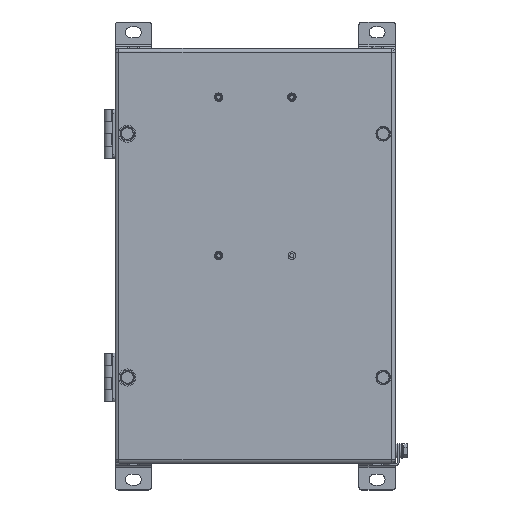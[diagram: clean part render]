
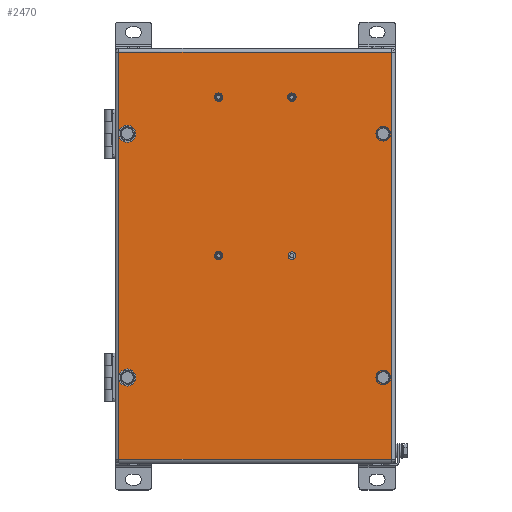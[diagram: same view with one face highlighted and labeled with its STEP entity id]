
A CAD part, top view. The second image highlights one B-rep face of the part: STEP entity #2470.
In plain terms, the highlighted planar face has unit normal (0, 0, 1).
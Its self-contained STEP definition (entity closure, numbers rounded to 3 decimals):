
#1900=CARTESIAN_POINT('',(112.,-167.,150.));
#1901=VERTEX_POINT('',#1900);
#1967=CARTESIAN_POINT('',(112.0,167.,150.));
#1968=VERTEX_POINT('',#1967);
#2034=CARTESIAN_POINT('',(-112.,-167.,150.));
#2035=VERTEX_POINT('',#2034);
#2107=CARTESIAN_POINT('',(112.,-167.,150.));
#2108=DIRECTION('',(-1.0,0.0,0.0));
#2109=VECTOR('',#2108,224.);
#2110=LINE('',#2107,#2109);
#2111=EDGE_CURVE('',#1901,#2035,#2110,.T.);
#2123=CARTESIAN_POINT('',(-112.,167.,150.));
#2124=VERTEX_POINT('',#2123);
#2196=CARTESIAN_POINT('',(-112.,-167.0,150.));
#2197=DIRECTION('',(0.0,1.0,0.0));
#2198=VECTOR('',#2197,334.0);
#2199=LINE('',#2196,#2198);
#2200=EDGE_CURVE('',#2035,#2124,#2199,.T.);
#2218=CARTESIAN_POINT('',(-112.,167.,150.));
#2219=DIRECTION('',(1.0,0.0,0.0));
#2220=VECTOR('',#2219,224.);
#2221=LINE('',#2218,#2220);
#2222=EDGE_CURVE('',#2124,#1968,#2221,.T.);
#2240=CARTESIAN_POINT('',(112.,167.0,150.));
#2241=DIRECTION('',(0.0,-1.0,0.0));
#2242=VECTOR('',#2241,334.0);
#2243=LINE('',#2240,#2242);
#2244=EDGE_CURVE('',#1968,#1901,#2243,.T.);
#2371=CARTESIAN_POINT('',(0.,0.,150.));
#2372=DIRECTION('',(0.0,0.0,1.0));
#2373=DIRECTION('',(1.0,0.0,0.0));
#2374=AXIS2_PLACEMENT_3D('',#2371,#2372,#2373);
#2375=PLANE('',#2374);
#2376=ORIENTED_EDGE('',*,*,#2111,.F.);
#2377=ORIENTED_EDGE('',*,*,#2244,.F.);
#2378=ORIENTED_EDGE('',*,*,#2222,.F.);
#2379=ORIENTED_EDGE('',*,*,#2200,.F.);
#2380=EDGE_LOOP('',(#2376,#2377,#2378,#2379));
#2381=FACE_OUTER_BOUND('',#2380,.T.);
#2382=CARTESIAN_POINT('',(-101.25,100.,150.));
#2383=VERTEX_POINT('',#2382);
#2384=CARTESIAN_POINT('',(-105.,100.,150.));
#2385=DIRECTION('',(0.0,0.0,-1.0));
#2386=DIRECTION('',(-1.0,0.0,0.0));
#2387=AXIS2_PLACEMENT_3D('',#2384,#2385,#2386);
#2388=CIRCLE('',#2387,3.75);
#2389=EDGE_CURVE('',#2383,#2383,#2388,.T.);
#2390=ORIENTED_EDGE('',*,*,#2389,.T.);
#2391=EDGE_LOOP('',(#2390));
#2392=FACE_BOUND('',#2391,.T.);
#2393=CARTESIAN_POINT('',(108.75,100.0,150.));
#2394=VERTEX_POINT('',#2393);
#2395=CARTESIAN_POINT('',(105.,100.0,150.));
#2396=DIRECTION('',(0.0,0.0,-1.0));
#2397=DIRECTION('',(-1.0,0.0,0.0));
#2398=AXIS2_PLACEMENT_3D('',#2395,#2396,#2397);
#2399=CIRCLE('',#2398,3.75);
#2400=EDGE_CURVE('',#2394,#2394,#2399,.T.);
#2401=ORIENTED_EDGE('',*,*,#2400,.T.);
#2402=EDGE_LOOP('',(#2401));
#2403=FACE_BOUND('',#2402,.T.);
#2404=CARTESIAN_POINT('',(-101.25,-100.,150.));
#2405=VERTEX_POINT('',#2404);
#2406=CARTESIAN_POINT('',(-105.,-100.,150.));
#2407=DIRECTION('',(0.0,0.0,-1.0));
#2408=DIRECTION('',(-1.0,0.0,0.0));
#2409=AXIS2_PLACEMENT_3D('',#2406,#2407,#2408);
#2410=CIRCLE('',#2409,3.75);
#2411=EDGE_CURVE('',#2405,#2405,#2410,.T.);
#2412=ORIENTED_EDGE('',*,*,#2411,.T.);
#2413=EDGE_LOOP('',(#2412));
#2414=FACE_BOUND('',#2413,.T.);
#2415=CARTESIAN_POINT('',(108.75,-100.0,150.));
#2416=VERTEX_POINT('',#2415);
#2417=CARTESIAN_POINT('',(105.,-100.0,150.));
#2418=DIRECTION('',(0.0,0.0,-1.0));
#2419=DIRECTION('',(-1.0,0.0,0.0));
#2420=AXIS2_PLACEMENT_3D('',#2417,#2418,#2419);
#2421=CIRCLE('',#2420,3.75);
#2422=EDGE_CURVE('',#2416,#2416,#2421,.T.);
#2423=ORIENTED_EDGE('',*,*,#2422,.T.);
#2424=EDGE_LOOP('',(#2423));
#2425=FACE_BOUND('',#2424,.T.);
#2426=CARTESIAN_POINT('',(33.05,130.,150.));
#2427=VERTEX_POINT('',#2426);
#2428=CARTESIAN_POINT('',(30.,130.,150.));
#2429=DIRECTION('',(0.0,0.0,-1.0));
#2430=DIRECTION('',(-1.0,0.0,0.0));
#2431=AXIS2_PLACEMENT_3D('',#2428,#2429,#2430);
#2432=CIRCLE('',#2431,3.05);
#2433=EDGE_CURVE('',#2427,#2427,#2432,.T.);
#2434=ORIENTED_EDGE('',*,*,#2433,.T.);
#2435=EDGE_LOOP('',(#2434));
#2436=FACE_BOUND('',#2435,.T.);
#2437=CARTESIAN_POINT('',(-26.95,130.,150.));
#2438=VERTEX_POINT('',#2437);
#2439=CARTESIAN_POINT('',(-30.,130.,150.));
#2440=DIRECTION('',(0.0,0.0,-1.0));
#2441=DIRECTION('',(-1.0,0.0,0.0));
#2442=AXIS2_PLACEMENT_3D('',#2439,#2440,#2441);
#2443=CIRCLE('',#2442,3.05);
#2444=EDGE_CURVE('',#2438,#2438,#2443,.T.);
#2445=ORIENTED_EDGE('',*,*,#2444,.T.);
#2446=EDGE_LOOP('',(#2445));
#2447=FACE_BOUND('',#2446,.T.);
#2448=CARTESIAN_POINT('',(-26.95,0.,150.));
#2449=VERTEX_POINT('',#2448);
#2450=CARTESIAN_POINT('',(-30.,0.,150.));
#2451=DIRECTION('',(0.0,0.0,-1.0));
#2452=DIRECTION('',(-1.0,0.0,0.0));
#2453=AXIS2_PLACEMENT_3D('',#2450,#2451,#2452);
#2454=CIRCLE('',#2453,3.05);
#2455=EDGE_CURVE('',#2449,#2449,#2454,.T.);
#2456=ORIENTED_EDGE('',*,*,#2455,.T.);
#2457=EDGE_LOOP('',(#2456));
#2458=FACE_BOUND('',#2457,.T.);
#2459=CARTESIAN_POINT('',(33.05,0.,150.));
#2460=VERTEX_POINT('',#2459);
#2461=CARTESIAN_POINT('',(30.,0.,150.));
#2462=DIRECTION('',(0.0,0.0,-1.0));
#2463=DIRECTION('',(-1.0,0.0,0.0));
#2464=AXIS2_PLACEMENT_3D('',#2461,#2462,#2463);
#2465=CIRCLE('',#2464,3.05);
#2466=EDGE_CURVE('',#2460,#2460,#2465,.T.);
#2467=ORIENTED_EDGE('',*,*,#2466,.T.);
#2468=EDGE_LOOP('',(#2467));
#2469=FACE_BOUND('',#2468,.T.);
#2470=ADVANCED_FACE('',(#2381,#2392,#2403,#2414,#2425,#2436,#2447,#2458,#2469),#2375,.T.);
